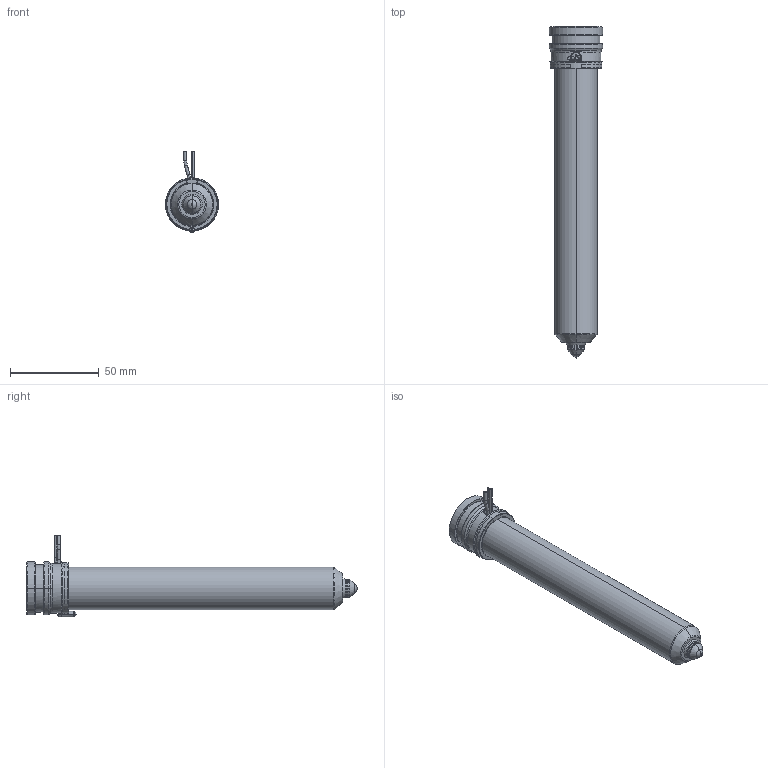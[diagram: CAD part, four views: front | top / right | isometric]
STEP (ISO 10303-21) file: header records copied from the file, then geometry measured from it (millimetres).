
FILE_DESCRIPTION((''),'2;1');
FILE_NAME('MPN-10-29-VX10-166-A','2026-02-05T12:41:28',('UPTIO'),('Thermoplay S.p.A.'),'CREO PARAMETRIC BY PTC INC, 2023494','CREO PARAMETRIC BY PTC INC, 2023494','');
FILE_SCHEMA(('CONFIG_CONTROL_DESIGN','SHAPE_APPEARANCE_LAYERS_GROUPS'));
Length unit declared in the file: millimetre
Products named in the file (1): MPN-10-29-VX10-166-A
Bounding box: 30 x 187.5 x 46 mm (x, y, z)
Volume: 57825 mm3; surface area: 58669.4 mm2
Topology: 2 solids, 3 shells, 557 faces, 1459 edges, 901 vertices
Faces by surface type: cylinder 182, plane 144, bspline 76, torus 72, cone 70, sphere 9, extrusion 4
Entity records: 30728 total; most frequent: CARTESIAN_POINT 14221, ORIENTED_EDGE 2906, DIRECTION 2711, EDGE_CURVE 1453, AXIS2_PLACEMENT_3D 1078, VERTEX_POINT 901, CIRCLE 600, EDGE_LOOP 586
